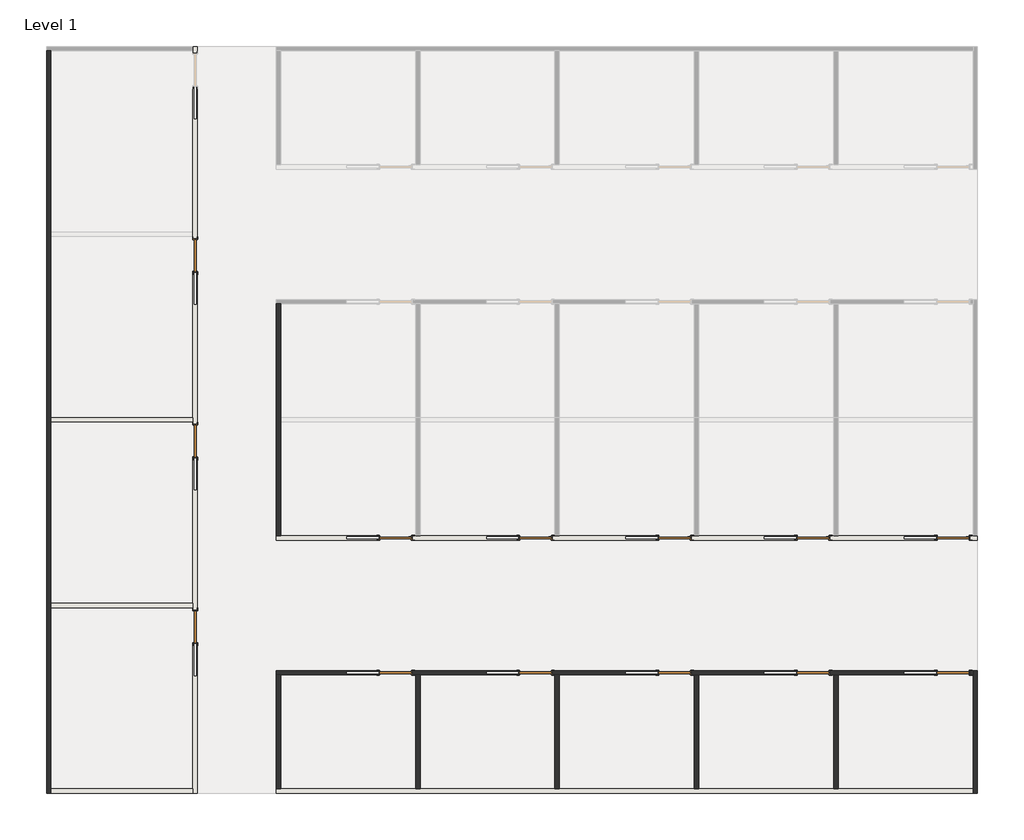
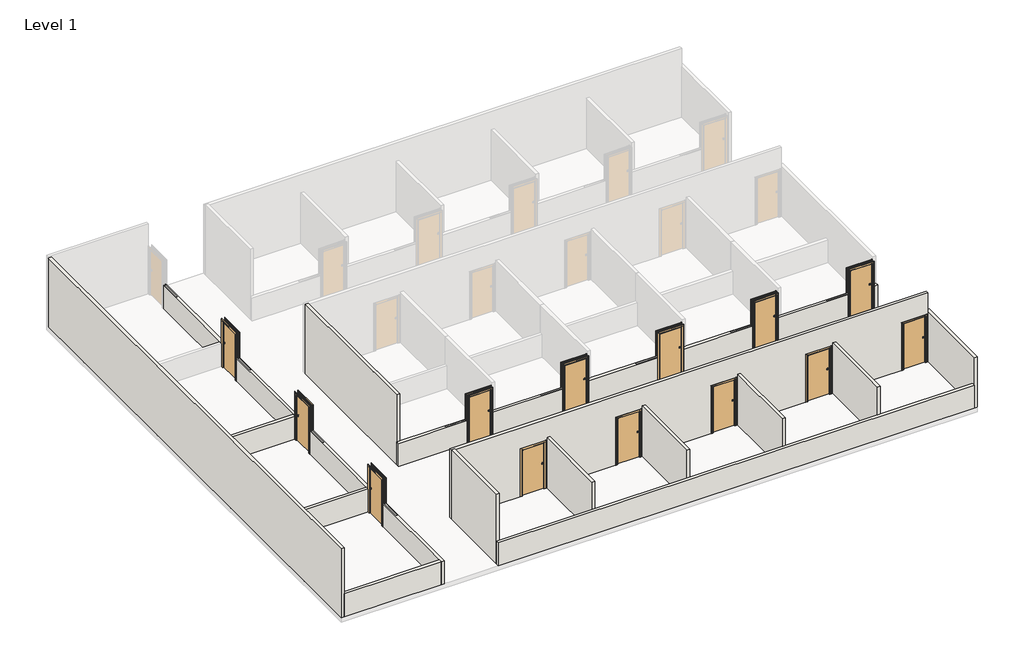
# One storey, part 1 of 2: 15 walls, 13 doors.
"""IFC4 building model written with IfcOpenShell, lengths in millimetres."""

from ifc_helpers import new_model, si_unit, origin, origin_with_axes, place, context, project, spatial, polyline, outline, extrude, faceted_brep, transform, mapped, element, save
from components import door_cd230160, door_3eefad80

model = new_model("IFC4")

# Units and contexts
model_context = context("Model", 3, world=origin())
ifc_project = project(units=[si_unit("LENGTHUNIT", "METRE", prefix="MILLI")], contexts=[model_context])

# Site, building, storey
site = spatial("IfcSite", under=ifc_project)
building = spatial("IfcBuilding", under=site)
storey = spatial("IfcBuildingStorey", under=building, Name="Level 1", Elevation=0.0)

# Doors
placement = place(None, origin())
door_shape = door_cd230160(model_context)
element("IfcDoor", 1, ObjectType="DoorInternal_Barausse_Feel Plus Sliding wall-125+x : Int_Door_Barausse_Feel-Plus-Sliding_900x2000_Wall-125+x", at=placement, inside=storey, context=model_context, shape_type="MappedRepresentation", body=[
    mapped(door_shape, transform((-20299.5068022, 7593.8853962, 0.0), x_axis=(0.0, 1.0, 0.0), y_axis=(-1.0, 0.0, 0.0), z_axis=(0.0, 0.0, 1.0))),
])
element("IfcDoor", 2, ObjectType="DoorInternal_Barausse_Feel Plus Sliding wall-125+x : Int_Door_Barausse_Feel-Plus-Sliding_900x2000_Wall-125+x", at=placement, inside=storey, context=model_context, shape_type="MappedRepresentation", body=[
    mapped(door_shape, transform((1050.4931978, -4156.1146038, 0.0), x_axis=(1.0, 0.0, 0.0), y_axis=(0.0, 1.0, 0.0), z_axis=(0.0, 0.0, 1.0))),
])
element("IfcDoor", 3, ObjectType="DoorInternal_Barausse_Feel Plus Sliding wall-125+x : Int_Door_Barausse_Feel-Plus-Sliding_900x2000_Wall-125+x", at=placement, inside=storey, context=model_context, shape_type="MappedRepresentation", body=[
    mapped(door_shape, transform((1050.4931978, -355.6146038, 0.0), x_axis=(1.0, 0.0, 0.0), y_axis=(0.0, 1.0, 0.0), z_axis=(0.0, 0.0, 1.0))),
])
door_2_shape = door_3eefad80(model_context)
element("IfcDoor", 4, ObjectType="DoorInternal_Barausse_Feel Plus Sliding wall-125+x : Int_Door_Barausse_Feel-Plus-Sliding_900x2000_Wall-125+x", at=placement, inside=storey, context=model_context, shape_type="MappedRepresentation", body=[
    mapped(door_2_shape, transform((-20299.5068022, -2861.1146038, 0.0), x_axis=(0.0, 1.0, 0.0), y_axis=(-1.0, 0.0, 0.0), z_axis=(0.0, 0.0, 1.0))),
])
element("IfcDoor", 5, ObjectType="DoorInternal_Barausse_Feel Plus Sliding wall-125+x : Int_Door_Barausse_Feel-Plus-Sliding_900x2000_Wall-125+x", at=placement, inside=storey, context=model_context, shape_type="MappedRepresentation", body=[
    mapped(door_2_shape, transform((-20299.5068022, 2368.8853962, 0.0), x_axis=(0.0, 1.0, 0.0), y_axis=(-1.0, 0.0, 0.0), z_axis=(0.0, 0.0, 1.0))),
])
element("IfcDoor", 6, ObjectType="DoorInternal_Barausse_Feel Plus Sliding wall-125+x : Int_Door_Barausse_Feel-Plus-Sliding_900x2000_Wall-125+x", at=placement, inside=storey, context=model_context, shape_type="MappedRepresentation", body=[
    mapped(door_2_shape, transform((-14654.5068022, -4156.1146038, 0.0), x_axis=(1.0, 0.0, 0.0), y_axis=(0.0, 1.0, 0.0), z_axis=(0.0, 0.0, 1.0))),
])
element("IfcDoor", 7, ObjectType="DoorInternal_Barausse_Feel Plus Sliding wall-125+x : Int_Door_Barausse_Feel-Plus-Sliding_900x2000_Wall-125+x", at=placement, inside=storey, context=model_context, shape_type="MappedRepresentation", body=[
    mapped(door_2_shape, transform((-10714.5068022, -4156.1146038, 0.0), x_axis=(1.0, 0.0, 0.0), y_axis=(0.0, 1.0, 0.0), z_axis=(0.0, 0.0, 1.0))),
])
element("IfcDoor", 8, ObjectType="DoorInternal_Barausse_Feel Plus Sliding wall-125+x : Int_Door_Barausse_Feel-Plus-Sliding_900x2000_Wall-125+x", at=placement, inside=storey, context=model_context, shape_type="MappedRepresentation", body=[
    mapped(door_2_shape, transform((-6794.5068022, -4156.1146038, 0.0), x_axis=(1.0, 0.0, 0.0), y_axis=(0.0, 1.0, 0.0), z_axis=(0.0, 0.0, 1.0))),
])
element("IfcDoor", 9, ObjectType="DoorInternal_Barausse_Feel Plus Sliding wall-125+x : Int_Door_Barausse_Feel-Plus-Sliding_900x2000_Wall-125+x", at=placement, inside=storey, context=model_context, shape_type="MappedRepresentation", body=[
    mapped(door_2_shape, transform((-2894.5068022, -4156.1146038, 0.0), x_axis=(1.0, 0.0, 0.0), y_axis=(0.0, 1.0, 0.0), z_axis=(0.0, 0.0, 1.0))),
])
element("IfcDoor", 10, ObjectType="DoorInternal_Barausse_Feel Plus Sliding wall-125+x : Int_Door_Barausse_Feel-Plus-Sliding_900x2000_Wall-125+x", at=placement, inside=storey, context=model_context, shape_type="MappedRepresentation", body=[
    mapped(door_2_shape, transform((-14654.5068022, -355.6146038, 0.0), x_axis=(1.0, 0.0, 0.0), y_axis=(0.0, 1.0, 0.0), z_axis=(0.0, 0.0, 1.0))),
])
element("IfcDoor", 11, ObjectType="DoorInternal_Barausse_Feel Plus Sliding wall-125+x : Int_Door_Barausse_Feel-Plus-Sliding_900x2000_Wall-125+x", at=placement, inside=storey, context=model_context, shape_type="MappedRepresentation", body=[
    mapped(door_2_shape, transform((-10714.5068022, -355.6146038, 0.0), x_axis=(1.0, 0.0, 0.0), y_axis=(0.0, 1.0, 0.0), z_axis=(0.0, 0.0, 1.0))),
])
element("IfcDoor", 12, ObjectType="DoorInternal_Barausse_Feel Plus Sliding wall-125+x : Int_Door_Barausse_Feel-Plus-Sliding_900x2000_Wall-125+x", at=placement, inside=storey, context=model_context, shape_type="MappedRepresentation", body=[
    mapped(door_2_shape, transform((-6794.5068022, -355.6146038, 0.0), x_axis=(1.0, 0.0, 0.0), y_axis=(0.0, 1.0, 0.0), z_axis=(0.0, 0.0, 1.0))),
])
element("IfcDoor", 13, ObjectType="DoorInternal_Barausse_Feel Plus Sliding wall-125+x : Int_Door_Barausse_Feel-Plus-Sliding_900x2000_Wall-125+x", at=placement, inside=storey, context=model_context, shape_type="MappedRepresentation", body=[
    mapped(door_2_shape, transform((-2894.5068022, -355.6146038, 0.0), x_axis=(1.0, 0.0, 0.0), y_axis=(0.0, 1.0, 0.0), z_axis=(0.0, 0.0, 1.0))),
])

# Walls
element("IfcWall", 14, ObjectType="Wall 125mm", at=placement, inside=storey, context=model_context, shape_type="Brep", body=[
    faceted_brep([(-24362.0068022, -7543.6146038, 0.0), (-24362.0068022, -7418.6146038, 0.0), (-24362.0068022, -2318.6146038, 0.0), (-24362.0068022, -2193.6146038, 0.0), (-24362.0068022, 2906.3853962, 0.0), (-24362.0068022, 3031.3853962, 0.0), (-24362.0068022, 8131.3853962, 0.0), (-24362.0068022, 8256.3853962, 0.0), (-24362.0068022, 13356.3853962, 0.0), (-24362.0068022, 13356.3853962, 3000.0), (-24362.0068022, -7543.6146038, 3000.0), (-24362.0068022, -7543.6146038, 1000.0), (-24487.0068022, -7543.6146038, 0.0), (-24487.0068022, -7543.6146038, 3000.0), (-24487.0068022, 13356.3853962, 3000.0), (-24487.0068022, 13356.3853962, 0.0)], [[[0, 1, 2, 3, 4, 5, 6, 7, 8, 9, 10, 11]], [[12, 13, 14, 15]], [[8, 7, 6, 5, 4, 3, 2, 1, 0, 12, 15]], [[10, 9, 14, 13]], [[0, 11, 10, 13, 12]], [[9, 8, 15, 14]]]),
])
element("IfcWall", 15, ObjectType="Wall 125mm", at=placement, inside=storey, context=model_context, shape_type="Brep", body=[
    faceted_brep([(-20362.0068022, -7543.6146038, 0.0), (-20362.0068022, -7543.6146038, 1000.0), (-20362.0068022, -7418.6146038, 1000.0), (-20362.0068022, -3337.6646038, 1000.0), (-20362.0068022, -3337.6646038, 0.0), (-20362.0068022, -7418.6146038, 0.0), (-20237.0068022, -7543.6146038, 1000.0), (-20237.0068022, -7543.6146038, 0.0), (-20237.0068022, -3337.6646038, 0.0), (-20237.0068022, -3337.6646038, 1000.0), (-20338.5068015, -3337.6646038, 0.0), (-20338.5068015, -4251.6646038, 0.0), (-20260.0068022, -4251.6646038, 0.0), (-20260.0068022, -3337.6646038, 0.0), (-20260.0068022, -3337.6646038, 1000.0), (-20260.0068022, -4251.6646038, 1000.0), (-20338.5068015, -4251.6646038, 1000.0), (-20338.5068015, -3337.6646038, 1000.0)], [[[0, 1, 2, 3, 4, 5]], [[6, 7, 8, 9]], [[7, 0, 5, 4, 10, 11, 12, 13, 8]], [[1, 6, 9, 14, 15, 16, 17, 3, 2]], [[1, 0, 7, 6]], [[13, 12, 15, 14]], [[12, 11, 16, 15]], [[11, 10, 17, 16]], [[4, 3, 17, 10]], [[9, 8, 13, 14]]]),
    faceted_brep([(-20362.0068022, -2384.5646038, 0.0), (-20362.0068022, -2384.5646038, 1000.0), (-20362.0068022, -2318.6146038, 1000.0), (-20362.0068022, -2193.6146038, 1000.0), (-20362.0068022, 1892.3353962, 1000.0), (-20362.0068022, 1892.3353962, 0.0), (-20362.0068022, -2193.6146038, 0.0), (-20362.0068022, -2318.6146038, 0.0), (-20237.0068022, -2384.5646038, 1000.0), (-20237.0068022, -2384.5646038, 0.0), (-20237.0068022, 1892.3353962, 0.0), (-20237.0068022, 1892.3353962, 1000.0), (-20338.5068015, 1892.3353962, 0.0), (-20338.5068015, 978.3353962, 0.0), (-20260.0068022, 978.3353962, 0.0), (-20260.0068022, 1892.3353962, 0.0), (-20260.0068022, 1892.3353962, 1000.0), (-20260.0068022, 978.3353962, 1000.0), (-20338.5068015, 978.3353962, 1000.0), (-20338.5068015, 1892.3353962, 1000.0)], [[[0, 1, 2, 3, 4, 5, 6, 7]], [[8, 9, 10, 11]], [[9, 0, 7, 6, 5, 12, 13, 14, 15, 10]], [[1, 8, 11, 16, 17, 18, 19, 4, 3, 2]], [[1, 0, 9, 8]], [[15, 14, 17, 16]], [[14, 13, 18, 17]], [[13, 12, 19, 18]], [[5, 4, 19, 12]], [[11, 10, 15, 16]]]),
    faceted_brep([(-20362.0068022, 2845.4353962, 0.0), (-20362.0068022, 2845.4353962, 1000.0), (-20362.0068022, 2906.3853962, 1000.0), (-20362.0068022, 3031.3853962, 1000.0), (-20362.0068022, 7117.3353962, 1000.0), (-20362.0068022, 7117.3353962, 0.0), (-20362.0068022, 3031.3853962, 0.0), (-20362.0068022, 2906.3853962, 0.0), (-20237.0068022, 2845.4353962, 1000.0), (-20237.0068022, 2845.4353962, 0.0), (-20237.0068022, 7117.3353962, 0.0), (-20237.0068022, 7117.3353962, 1000.0), (-20339.0068022, 7117.3353962, 0.0), (-20339.0068022, 6203.3353962, 0.0), (-20260.5068029, 6203.3353962, 0.0), (-20260.5068029, 7117.3353962, 0.0), (-20260.5068029, 7117.3353962, 1000.0), (-20260.5068029, 6203.3353962, 1000.0), (-20339.0068022, 6203.3353962, 1000.0), (-20339.0068022, 7117.3353962, 1000.0)], [[[0, 1, 2, 3, 4, 5, 6, 7]], [[8, 9, 10, 11]], [[9, 0, 7, 6, 5, 12, 13, 14, 15, 10]], [[1, 8, 11, 16, 17, 18, 19, 4, 3, 2]], [[1, 0, 9, 8]], [[13, 12, 19, 18]], [[14, 13, 18, 17]], [[15, 14, 17, 16]], [[11, 10, 15, 16]], [[5, 4, 19, 12]]]),
    faceted_brep([(-20362.0068022, 8070.4353962, 0.0), (-20362.0068022, 8070.4353962, 1000.0), (-20362.0068022, 8131.3853962, 1000.0), (-20362.0068022, 8256.3853962, 1000.0), (-20362.0068022, 12342.3353962, 1000.0), (-20362.0068022, 12342.3353962, 0.0), (-20362.0068022, 8256.3853962, 0.0), (-20362.0068022, 8131.3853962, 0.0), (-20237.0068022, 8070.4353962, 1000.0), (-20237.0068022, 8070.4353962, 0.0), (-20237.0068022, 12342.3353962, 0.0), (-20237.0068022, 12342.3353962, 1000.0), (-20339.0068022, 12342.3353962, 0.0), (-20339.0068022, 11428.3353962, 0.0), (-20260.5068029, 11428.3353962, 0.0), (-20260.5068029, 12342.3353962, 0.0), (-20260.5068029, 12342.3353962, 1000.0), (-20260.5068029, 11428.3353962, 1000.0), (-20339.0068022, 11428.3353962, 1000.0), (-20339.0068022, 12342.3353962, 1000.0)], [[[0, 1, 2, 3, 4, 5, 6, 7]], [[8, 9, 10, 11]], [[9, 0, 7, 6, 5, 12, 13, 14, 15, 10]], [[1, 8, 11, 16, 17, 18, 19, 4, 3, 2]], [[1, 0, 9, 8]], [[12, 19, 18, 13]], [[13, 18, 17, 14]], [[14, 17, 16, 15]], [[15, 16, 11, 10]], [[19, 12, 5, 4]]]),
    faceted_brep([(-20362.0068022, 13481.3853962, 1000.0), (-20362.0068022, 13481.3853962, 0.0), (-20362.0068022, 13356.3853962, 0.0), (-20362.0068022, 13295.4353962, 0.0), (-20362.0068022, 13295.4353962, 1000.0), (-20237.0068022, 13481.3853962, 0.0), (-20237.0068022, 13481.3853962, 1000.0), (-20237.0068022, 13295.4353962, 1000.0), (-20237.0068022, 13295.4353962, 0.0)], [[[0, 1, 2, 3, 4]], [[5, 6, 7, 8]], [[1, 5, 8, 3, 2]], [[6, 0, 4, 7]], [[4, 3, 8, 7]], [[1, 0, 6, 5]]]),
])
element("IfcWall", 16, ObjectType="Wall 125mm", at=placement, inside=storey, context=model_context, shape_type="SweptSolid", body=[
    extrude(outline(polyline([(-24362.0068022, -7418.6146038), (-20362.0068022, -7418.6146038), (-20362.0068022, -7543.6146038), (-24362.0068022, -7543.6146038), (-24362.0068022, -7418.6146038)])), origin_with_axes(), (0.0, 0.0, 1.0), 1000.0),
])
element("IfcWall", 17, ObjectType="Wall 125mm", at=placement, inside=storey, context=model_context, shape_type="Brep", body=[
    faceted_brep([(1607.9931978, -4218.6146038, 3000.0), (-18017.0068022, -4218.6146038, 3000.0), (-18017.0068022, -4218.6146038, 0.0), (-17892.0068022, -4218.6146038, 0.0), (-15131.0568022, -4218.6146038, 0.0), (-15131.0568022, -4218.6146038, 2035.2), (-14177.9568022, -4218.6146038, 2035.2), (-14177.9568022, -4218.6146038, 0.0), (-14092.0068022, -4218.6146038, 0.0), (-13967.0068022, -4218.6146038, 0.0), (-11191.0568022, -4218.6146038, 0.0), (-11191.0568022, -4218.6146038, 2035.2), (-10237.9568022, -4218.6146038, 2035.2), (-10237.9568022, -4218.6146038, 0.0), (-10167.0068022, -4218.6146038, 0.0), (-10042.0068022, -4218.6146038, 0.0), (-7271.0568022, -4218.6146038, 0.0), (-7271.0568022, -4218.6146038, 2035.2), (-6317.9568022, -4218.6146038, 2035.2), (-6317.9568022, -4218.6146038, 0.0), (-6242.0068022, -4218.6146038, 0.0), (-6117.0068022, -4218.6146038, 0.0), (-3371.0568022, -4218.6146038, 0.0), (-3371.0568022, -4218.6146038, 2035.2), (-2417.9568022, -4218.6146038, 2035.2), (-2417.9568022, -4218.6146038, 0.0), (-2317.0068022, -4218.6146038, 0.0), (-2192.0068022, -4218.6146038, 0.0), (573.9431978, -4218.6146038, 0.0), (573.9431978, -4218.6146038, 2035.2), (1527.0431978, -4218.6146038, 2035.2), (1527.0431978, -4218.6146038, 0.0), (1607.9931978, -4218.6146038, 0.0), (-18017.0068022, -4093.6146038, 3000.0), (1607.9931978, -4093.6146038, 3000.0), (1607.9931978, -4093.6146038, 2200.0), (1607.9931978, -4093.6146038, 0.0), (1527.0431978, -4093.6146038, 0.0), (1527.0431978, -4093.6146038, 2035.2), (573.9431978, -4093.6146038, 2035.2), (573.9431978, -4093.6146038, 0.0), (-2417.9568022, -4093.6146038, 0.0), (-2417.9568022, -4093.6146038, 2035.2), (-3371.0568022, -4093.6146038, 2035.2), (-3371.0568022, -4093.6146038, 0.0), (-6317.9568022, -4093.6146038, 0.0), (-6317.9568022, -4093.6146038, 2035.2), (-7271.0568022, -4093.6146038, 2035.2), (-7271.0568022, -4093.6146038, 0.0), (-10237.9568022, -4093.6146038, 0.0), (-10237.9568022, -4093.6146038, 2035.2), (-11191.0568022, -4093.6146038, 2035.2), (-11191.0568022, -4093.6146038, 0.0), (-14177.9568022, -4093.6146038, 0.0), (-14177.9568022, -4093.6146038, 2035.2), (-15131.0568022, -4093.6146038, 2035.2), (-15131.0568022, -4093.6146038, 0.0), (-18017.0068022, -4093.6146038, 0.0), (-15131.0568022, -4117.1146045, 0.0), (-16045.0568022, -4117.1146045, 0.0), (-16045.0568022, -4195.6146038, 0.0), (-15131.0568022, -4195.6146038, 0.0), (-11191.0568022, -4117.1146045, 0.0), (-12105.0568022, -4117.1146045, 0.0), (-12105.0568022, -4195.6146038, 0.0), (-11191.0568022, -4195.6146038, 0.0), (-7271.0568022, -4117.1146045, 0.0), (-8185.0568022, -4117.1146045, 0.0), (-8185.0568022, -4195.6146038, 0.0), (-7271.0568022, -4195.6146038, 0.0), (-3371.0568022, -4117.1146045, 0.0), (-4285.0568022, -4117.1146045, 0.0), (-4285.0568022, -4195.6146038, 0.0), (-3371.0568022, -4195.6146038, 0.0), (573.9431978, -4116.6146038, 0.0), (-340.0568022, -4116.6146038, 0.0), (-340.0568022, -4195.1146031, 0.0), (573.9431978, -4195.1146031, 0.0), (-16045.0568022, -4117.1146045, 2035.2), (-15131.0568022, -4117.1146045, 2035.2), (-15131.0568022, -4195.6146038, 2035.2), (-16045.0568022, -4195.6146038, 2035.2), (-12105.0568022, -4117.1146045, 2035.2), (-11191.0568022, -4117.1146045, 2035.2), (-11191.0568022, -4195.6146038, 2035.2), (-12105.0568022, -4195.6146038, 2035.2), (-8185.0568022, -4117.1146045, 2035.2), (-7271.0568022, -4117.1146045, 2035.2), (-7271.0568022, -4195.6146038, 2035.2), (-8185.0568022, -4195.6146038, 2035.2), (-4285.0568022, -4117.1146045, 2035.2), (-3371.0568022, -4117.1146045, 2035.2), (-3371.0568022, -4195.6146038, 2035.2), (-4285.0568022, -4195.6146038, 2035.2), (573.9431978, -4195.1146031, 2035.2), (-340.0568022, -4195.1146031, 2035.2), (-340.0568022, -4116.6146038, 2035.2), (573.9431978, -4116.6146038, 2035.2)], [[[0, 1, 2, 3, 4, 5, 6, 7, 8, 9, 10, 11, 12, 13, 14, 15, 16, 17, 18, 19, 20, 21, 22, 23, 24, 25, 26, 27, 28, 29, 30, 31, 32]], [[33, 34, 35, 36, 37, 38, 39, 40, 41, 42, 43, 44, 45, 46, 47, 48, 49, 50, 51, 52, 53, 54, 55, 56, 57]], [[2, 57, 56, 58, 59, 60, 61, 4, 3]], [[36, 32, 31, 37]], [[7, 53, 52, 62, 63, 64, 65, 10, 9, 8]], [[13, 49, 48, 66, 67, 68, 69, 16, 15, 14]], [[19, 45, 44, 70, 71, 72, 73, 22, 21, 20]], [[25, 41, 40, 74, 75, 76, 77, 28, 27, 26]], [[1, 0, 34, 33]], [[2, 1, 33, 57]], [[0, 32, 36, 35, 34]], [[78, 79, 55, 54, 6, 5, 80, 81]], [[81, 80, 61, 60]], [[78, 81, 60, 59]], [[79, 78, 59, 58]], [[55, 79, 58, 56]], [[6, 54, 53, 7]], [[80, 5, 4, 61]], [[82, 83, 51, 50, 12, 11, 84, 85]], [[85, 84, 65, 64]], [[82, 85, 64, 63]], [[83, 82, 63, 62]], [[51, 83, 62, 52]], [[12, 50, 49, 13]], [[84, 11, 10, 65]], [[86, 87, 47, 46, 18, 17, 88, 89]], [[89, 88, 69, 68]], [[86, 89, 68, 67]], [[87, 86, 67, 66]], [[47, 87, 66, 48]], [[18, 46, 45, 19]], [[88, 17, 16, 69]], [[90, 91, 43, 42, 24, 23, 92, 93]], [[93, 92, 73, 72]], [[90, 93, 72, 71]], [[91, 90, 71, 70]], [[43, 91, 70, 44]], [[24, 42, 41, 25]], [[92, 23, 22, 73]], [[94, 95, 96, 97, 39, 38, 30, 29]], [[97, 96, 75, 74]], [[96, 95, 76, 75]], [[95, 94, 77, 76]], [[94, 29, 28, 77]], [[30, 38, 37, 31]], [[39, 97, 74, 40]]]),
])
element("IfcWall", 18, ObjectType="Wall 125mm", at=placement, inside=storey, context=model_context, shape_type="Brep", body=[
    faceted_brep([(1607.9931978, -7418.6146038, 0.0), (-2192.0068022, -7418.6146038, 0.0), (-2317.0068022, -7418.6146038, 0.0), (-6117.0068022, -7418.6146038, 0.0), (-6242.0068022, -7418.6146038, 0.0), (-10042.0068022, -7418.6146038, 0.0), (-10167.0068022, -7418.6146038, 0.0), (-13967.0068022, -7418.6146038, 0.0), (-14092.0068022, -7418.6146038, 0.0), (-17892.0068022, -7418.6146038, 0.0), (-18017.0068022, -7418.6146038, 0.0), (-18017.0068022, -7418.6146038, 1000.0), (1607.9931978, -7418.6146038, 1000.0), (1607.9931978, -7543.6146038, 0.0), (1607.9931978, -7543.6146038, 1000.0), (-18017.0068022, -7543.6146038, 1000.0), (-18017.0068022, -7543.6146038, 0.0)], [[[0, 1, 2, 3, 4, 5, 6, 7, 8, 9, 10, 11, 12]], [[13, 14, 15, 16]], [[10, 9, 8, 7, 6, 5, 4, 3, 2, 1, 0, 13, 16]], [[12, 11, 15, 14]], [[11, 10, 16, 15]], [[0, 12, 14, 13]]]),
])
element("IfcWall", 19, ObjectType="Wall 125mm", at=placement, inside=storey, context=model_context, shape_type="Brep", body=[
    faceted_brep([(-17892.0068022, -7418.6146038, 0.0), (-17892.0068022, -4218.6146038, 0.0), (-17892.0068022, -4218.6146038, 3048.0), (-17892.0068022, -7418.6146038, 3048.0), (-18017.0068022, -7418.6146038, 0.0), (-18017.0068022, -7418.6146038, 1000.0), (-18017.0068022, -7418.6146038, 3048.0), (-18017.0068022, -4218.6146038, 3048.0), (-18017.0068022, -4218.6146038, 3000.0), (-18017.0068022, -4218.6146038, 0.0)], [[[0, 1, 2, 3]], [[4, 5, 6, 7, 8, 9]], [[1, 0, 4, 9]], [[3, 2, 7, 6]], [[2, 1, 9, 8, 7]], [[0, 3, 6, 5, 4]]]),
])
element("IfcWall", 20, ObjectType="Wall 125mm", at=placement, inside=storey, context=model_context, shape_type="SweptSolid", body=[
    extrude(outline(polyline([(-13967.0068022, -4218.6146038), (-13967.0068022, -7418.6146038), (-14092.0068022, -7418.6146038), (-14092.0068022, -4218.6146038), (-13967.0068022, -4218.6146038)])), origin_with_axes(), (0.0, 0.0, 1.0), 2200.0),
])
element("IfcWall", 21, ObjectType="Wall 125mm", at=placement, inside=storey, context=model_context, shape_type="SweptSolid", body=[
    extrude(outline(polyline([(-10042.0068022, -4218.6146038), (-10042.0068022, -7418.6146038), (-10167.0068022, -7418.6146038), (-10167.0068022, -4218.6146038), (-10042.0068022, -4218.6146038)])), origin_with_axes(), (0.0, 0.0, 1.0), 2200.0),
])
element("IfcWall", 22, ObjectType="Wall 125mm", at=placement, inside=storey, context=model_context, shape_type="SweptSolid", body=[
    extrude(outline(polyline([(-6117.0068022, -4218.6146038), (-6117.0068022, -7418.6146038), (-6242.0068022, -7418.6146038), (-6242.0068022, -4218.6146038), (-6117.0068022, -4218.6146038)])), origin_with_axes(), (0.0, 0.0, 1.0), 2200.0),
])
element("IfcWall", 23, ObjectType="Wall 125mm", at=placement, inside=storey, context=model_context, shape_type="Brep", body=[
    faceted_brep([(1607.9931978, -4093.6146038, 0.0), (1607.9931978, -4218.6146038, 0.0), (1607.9931978, -7418.6146038, 0.0), (1607.9931978, -7543.6146038, 0.0), (1607.9931978, -7543.6146038, 1000.0), (1607.9931978, -7543.6146038, 2200.0), (1607.9931978, -4093.6146038, 2200.0), (1732.9931978, -4093.6146038, 0.0), (1732.9931978, -4093.6146038, 2200.0), (1732.9931978, -7543.6146038, 2200.0), (1732.9931978, -7543.6146038, 0.0)], [[[0, 1, 2, 3, 4, 5, 6]], [[7, 8, 9, 10]], [[3, 2, 1, 0, 7, 10]], [[6, 5, 9, 8]], [[0, 6, 8, 7]], [[5, 4, 3, 10, 9]]]),
])
element("IfcWall", 24, ObjectType="Wall 125mm", at=placement, inside=storey, context=model_context, shape_type="SweptSolid", body=[
    extrude(outline(polyline([(-2192.0068022, -4218.6146038), (-2192.0068022, -7418.6146038), (-2317.0068022, -7418.6146038), (-2317.0068022, -4218.6146038), (-2192.0068022, -4218.6146038)])), origin_with_axes(), (0.0, 0.0, 1.0), 2200.0),
])
element("IfcWall", 25, ObjectType="Wall 125mm", at=placement, inside=storey, context=model_context, shape_type="SweptSolid", body=[
    extrude(outline(polyline([(-20362.0068022, 2906.3853962), (-24362.0068022, 2906.3853962), (-24362.0068022, 3031.3853962), (-20362.0068022, 3031.3853962), (-20362.0068022, 2906.3853962)])), origin_with_axes(), (0.0, 0.0, 1.0), 1000.0),
])
element("IfcWall", 26, ObjectType="Wall 125mm", at=placement, inside=storey, context=model_context, shape_type="SweptSolid", body=[
    extrude(outline(polyline([(-24362.0068022, -2193.6146038), (-20362.0068022, -2193.6146038), (-20362.0068022, -2318.6146038), (-24362.0068022, -2318.6146038), (-24362.0068022, -2193.6146038)])), origin_with_axes(), (0.0, 0.0, 1.0), 1000.0),
])
element("IfcWall", 27, ObjectType="Wall 125mm", at=placement, inside=storey, context=model_context, shape_type="Brep", body=[
    faceted_brep([(-18017.0068022, -293.1146038, 0.0), (-18017.0068022, -293.1146038, 1000.0), (-15131.0568022, -293.1146038, 1000.0), (-15131.0568022, -293.1146038, 0.0), (-17892.0068022, -293.1146038, 0.0), (-18017.0068022, -418.1146038, 1000.0), (-18017.0068022, -418.1146038, 0.0), (-15131.0568022, -418.1146038, 0.0), (-15131.0568022, -418.1146038, 1000.0), (-15131.0568022, -316.6146045, 0.0), (-16045.0568022, -316.6146045, 0.0), (-16045.0568022, -395.1146038, 0.0), (-15131.0568022, -395.1146038, 0.0), (-15131.0568022, -395.1146038, 1000.0), (-16045.0568022, -395.1146038, 1000.0), (-16045.0568022, -316.6146045, 1000.0), (-15131.0568022, -316.6146045, 1000.0)], [[[0, 1, 2, 3, 4]], [[5, 6, 7, 8]], [[6, 0, 4, 3, 9, 10, 11, 12, 7]], [[1, 5, 8, 13, 14, 15, 16, 2]], [[1, 0, 6, 5]], [[12, 11, 14, 13]], [[11, 10, 15, 14]], [[10, 9, 16, 15]], [[3, 2, 16, 9]], [[8, 7, 12, 13]]]),
    faceted_brep([(1732.9931978, -293.1146038, 1000.0), (1732.9931978, -293.1146038, 0.0), (1607.9931978, -293.1146038, 0.0), (1527.0431978, -293.1146038, 0.0), (1527.0431978, -293.1146038, 1000.0), (1732.9931978, -418.1146038, 0.0), (1732.9931978, -418.1146038, 1000.0), (1527.0431978, -418.1146038, 1000.0), (1527.0431978, -418.1146038, 0.0)], [[[0, 1, 2, 3, 4]], [[5, 6, 7, 8]], [[1, 5, 8, 3, 2]], [[6, 0, 4, 7]], [[1, 0, 6, 5]], [[4, 3, 8, 7]]]),
    faceted_brep([(-14177.9568022, -293.1146038, 0.0), (-14177.9568022, -293.1146038, 1000.0), (-11191.0568022, -293.1146038, 1000.0), (-11191.0568022, -293.1146038, 0.0), (-13967.0068022, -293.1146038, 0.0), (-14092.0068022, -293.1146038, 0.0), (-14177.9568022, -418.1146038, 1000.0), (-14177.9568022, -418.1146038, 0.0), (-11191.0568022, -418.1146038, 0.0), (-11191.0568022, -418.1146038, 1000.0), (-11191.0568022, -316.6146045, 0.0), (-12105.0568022, -316.6146045, 0.0), (-12105.0568022, -395.1146038, 0.0), (-11191.0568022, -395.1146038, 0.0), (-11191.0568022, -395.1146038, 1000.0), (-12105.0568022, -395.1146038, 1000.0), (-12105.0568022, -316.6146045, 1000.0), (-11191.0568022, -316.6146045, 1000.0)], [[[0, 1, 2, 3, 4, 5]], [[6, 7, 8, 9]], [[7, 0, 5, 4, 3, 10, 11, 12, 13, 8]], [[1, 6, 9, 14, 15, 16, 17, 2]], [[1, 0, 7, 6]], [[13, 12, 15, 14]], [[12, 11, 16, 15]], [[11, 10, 17, 16]], [[3, 2, 17, 10]], [[9, 8, 13, 14]]]),
    faceted_brep([(-10237.9568022, -293.1146038, 0.0), (-10237.9568022, -293.1146038, 1000.0), (-7271.0568022, -293.1146038, 1000.0), (-7271.0568022, -293.1146038, 0.0), (-10042.0068022, -293.1146038, 0.0), (-10167.0068022, -293.1146038, 0.0), (-10237.9568022, -418.1146038, 1000.0), (-10237.9568022, -418.1146038, 0.0), (-7271.0568022, -418.1146038, 0.0), (-7271.0568022, -418.1146038, 1000.0), (-7271.0568022, -316.6146045, 0.0), (-8185.0568022, -316.6146045, 0.0), (-8185.0568022, -395.1146038, 0.0), (-7271.0568022, -395.1146038, 0.0), (-7271.0568022, -395.1146038, 1000.0), (-8185.0568022, -395.1146038, 1000.0), (-8185.0568022, -316.6146045, 1000.0), (-7271.0568022, -316.6146045, 1000.0)], [[[0, 1, 2, 3, 4, 5]], [[6, 7, 8, 9]], [[7, 0, 5, 4, 3, 10, 11, 12, 13, 8]], [[1, 6, 9, 14, 15, 16, 17, 2]], [[1, 0, 7, 6]], [[13, 12, 15, 14]], [[12, 11, 16, 15]], [[11, 10, 17, 16]], [[3, 2, 17, 10]], [[9, 8, 13, 14]]]),
    faceted_brep([(-6317.9568022, -293.1146038, 0.0), (-6317.9568022, -293.1146038, 1000.0), (-3371.0568022, -293.1146038, 1000.0), (-3371.0568022, -293.1146038, 0.0), (-6117.0068022, -293.1146038, 0.0), (-6242.0068022, -293.1146038, 0.0), (-6317.9568022, -418.1146038, 1000.0), (-6317.9568022, -418.1146038, 0.0), (-3371.0568022, -418.1146038, 0.0), (-3371.0568022, -418.1146038, 1000.0), (-3371.0568022, -316.6146045, 0.0), (-4285.0568022, -316.6146045, 0.0), (-4285.0568022, -395.1146038, 0.0), (-3371.0568022, -395.1146038, 0.0), (-3371.0568022, -395.1146038, 1000.0), (-4285.0568022, -395.1146038, 1000.0), (-4285.0568022, -316.6146045, 1000.0), (-3371.0568022, -316.6146045, 1000.0)], [[[0, 1, 2, 3, 4, 5]], [[6, 7, 8, 9]], [[7, 0, 5, 4, 3, 10, 11, 12, 13, 8]], [[1, 6, 9, 14, 15, 16, 17, 2]], [[1, 0, 7, 6]], [[13, 12, 15, 14]], [[12, 11, 16, 15]], [[11, 10, 17, 16]], [[3, 2, 17, 10]], [[9, 8, 13, 14]]]),
    faceted_brep([(-2417.9568022, -293.1146038, 0.0), (-2417.9568022, -293.1146038, 1000.0), (573.9431978, -293.1146038, 1000.0), (573.9431978, -293.1146038, 0.0), (-2192.0068022, -293.1146038, 0.0), (-2317.0068022, -293.1146038, 0.0), (-2417.9568022, -418.1146038, 1000.0), (-2417.9568022, -418.1146038, 0.0), (573.9431978, -418.1146038, 0.0), (573.9431978, -418.1146038, 1000.0), (573.9431978, -316.1146038, 0.0), (-340.0568022, -316.1146038, 0.0), (-340.0568022, -394.6146031, 0.0), (573.9431978, -394.6146031, 0.0), (573.9431978, -394.6146031, 1000.0), (-340.0568022, -394.6146031, 1000.0), (-340.0568022, -316.1146038, 1000.0), (573.9431978, -316.1146038, 1000.0)], [[[0, 1, 2, 3, 4, 5]], [[6, 7, 8, 9]], [[7, 0, 5, 4, 3, 10, 11, 12, 13, 8]], [[1, 6, 9, 14, 15, 16, 17, 2]], [[1, 0, 7, 6]], [[10, 17, 16, 11]], [[11, 16, 15, 12]], [[12, 15, 14, 13]], [[13, 14, 9, 8]], [[17, 10, 3, 2]]]),
])
element("IfcWall", 28, ObjectType="Wall 125mm", at=placement, inside=storey, context=model_context, shape_type="Brep", body=[
    faceted_brep([(-17892.0068022, -293.1146038, 0.0), (-17892.0068022, 2906.3853962, 0.0), (-17892.0068022, 3031.3853962, 0.0), (-17892.0068022, 6231.3853962, 0.0), (-17892.0068022, 6231.3853962, 3048.0), (-17892.0068022, -293.1146038, 3048.0), (-18017.0068022, -293.1146038, 0.0), (-18017.0068022, -293.1146038, 1000.0), (-18017.0068022, -293.1146038, 3048.0), (-18017.0068022, 6231.3853962, 3048.0), (-18017.0068022, 6231.3853962, 3000.0), (-18017.0068022, 6231.3853962, 0.0)], [[[0, 1, 2, 3, 4, 5]], [[6, 7, 8, 9, 10, 11]], [[3, 2, 1, 0, 6, 11]], [[5, 4, 9, 8]], [[0, 5, 8, 7, 6]], [[4, 3, 11, 10, 9]]]),
])

save(model, "model.ifc")
